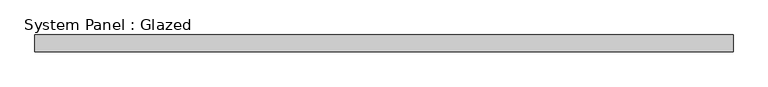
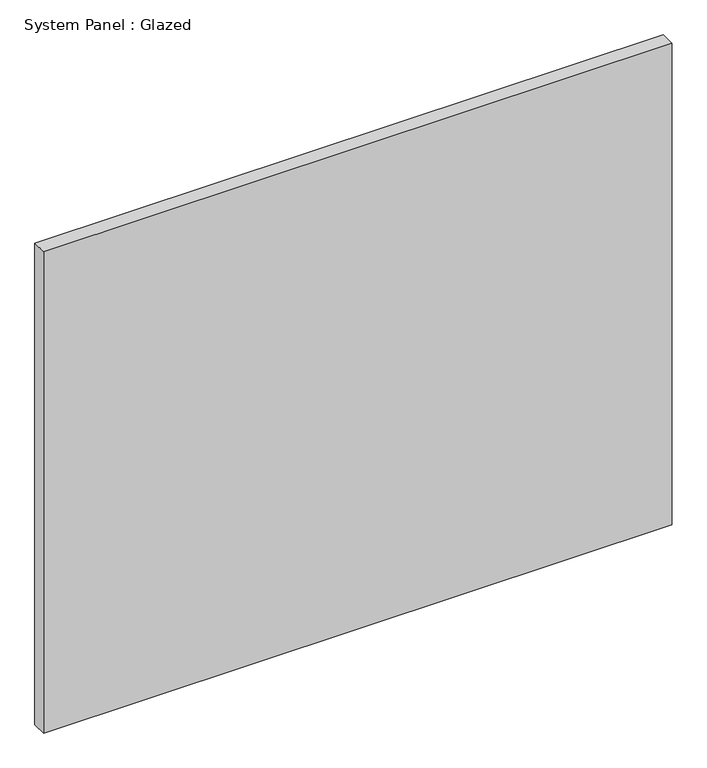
"""IFC4 building model written with IfcOpenShell, lengths in millimetres: plate geometry, System Panel : Glazed."""

from ifc_helpers import new_model, si_unit, origin, origin_with_axes, place, context, project, spatial, polyline, outline, extrude, source, transform, mapped, element, save


def system_panel_glazed_de31ea24(model_context):
    return source(origin(), model_context, "Body", "SweptSolid", [
        extrude(outline(polyline([(533.4, 19.05), (-533.4, 19.05), (-533.4, 44.45), (533.4, 44.45), (533.4, 19.05)])), origin_with_axes(), (0.0, 0.0, 1.0), 863.6),
    ])


if __name__ == "__main__":
    model = new_model("IFC4")
    model_context = context("Model", 3, world=origin())
    ifc_project = project(units=[si_unit("LENGTHUNIT", "METRE", prefix="MILLI")], contexts=[model_context])
    site = spatial("IfcSite", under=ifc_project)
    building = spatial("IfcBuilding", under=site)
    placement = place(None, origin())
    system_panel_glazed_shape = system_panel_glazed_de31ea24(model_context)
    element("IfcPlate", 1, ObjectType="System Panel : Glazed", at=placement, inside=building, context=model_context, shape_type="MappedRepresentation", body=[
        mapped(system_panel_glazed_shape, transform((0.0, 0.0, 0.0), x_axis=(1.0, 0.0, 0.0), y_axis=(0.0, 1.0, 0.0), z_axis=(0.0, 0.0, 1.0))),
    ])
    save(model, "model.ifc")
